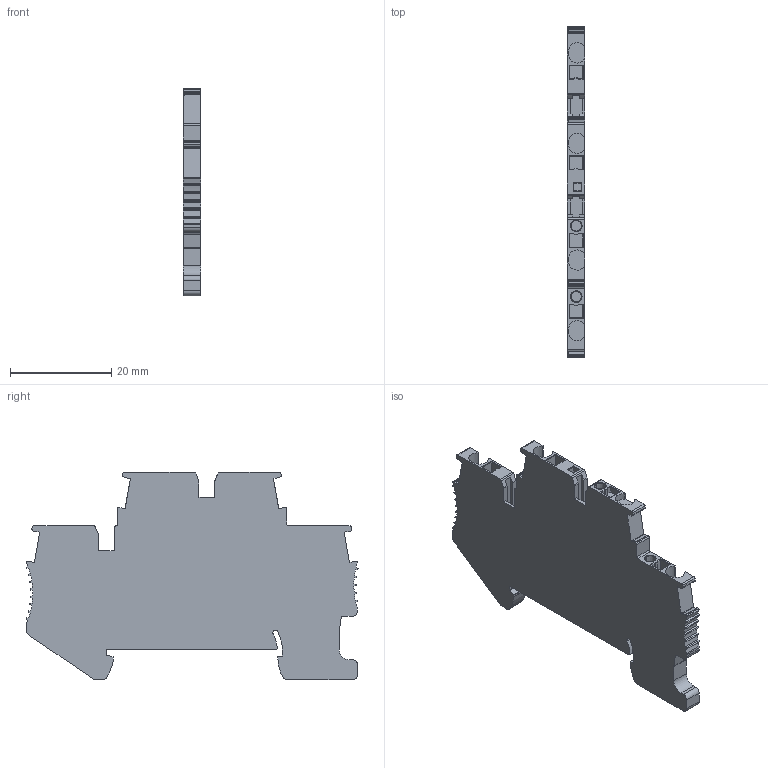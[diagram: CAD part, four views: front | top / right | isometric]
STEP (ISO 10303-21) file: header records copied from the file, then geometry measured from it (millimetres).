
FILE_DESCRIPTION (( 'STEP AP214' ), '1' );
FILE_NAME ('VPRTT-1.5-GY.STEP', '2026-03-30T14:24:54', ( '' ), ( '' ), 'SwSTEP 2.0', 'SolidWorks 2022', '' );
FILE_SCHEMA (( 'AUTOMOTIVE_DESIGN' ));
Length unit declared in the file: millimetre
Products named in the file (1): VPRTT-1.5-GY
Bounding box: 3.5 x 65.62 x 41.1 mm (x, y, z)
Volume: 6509.7 mm3; surface area: 5201.5 mm2
Topology: 1 solids, 1 shells, 352 faces, 989 edges, 646 vertices
Faces by surface type: plane 220, cylinder 124, cone 8
Entity records: 11369 total; most frequent: CARTESIAN_POINT 2005, ORIENTED_EDGE 1978, DIRECTION 1961, EDGE_CURVE 989, LINE 721, VECTOR 721, VERTEX_POINT 646, AXIS2_PLACEMENT_3D 620
